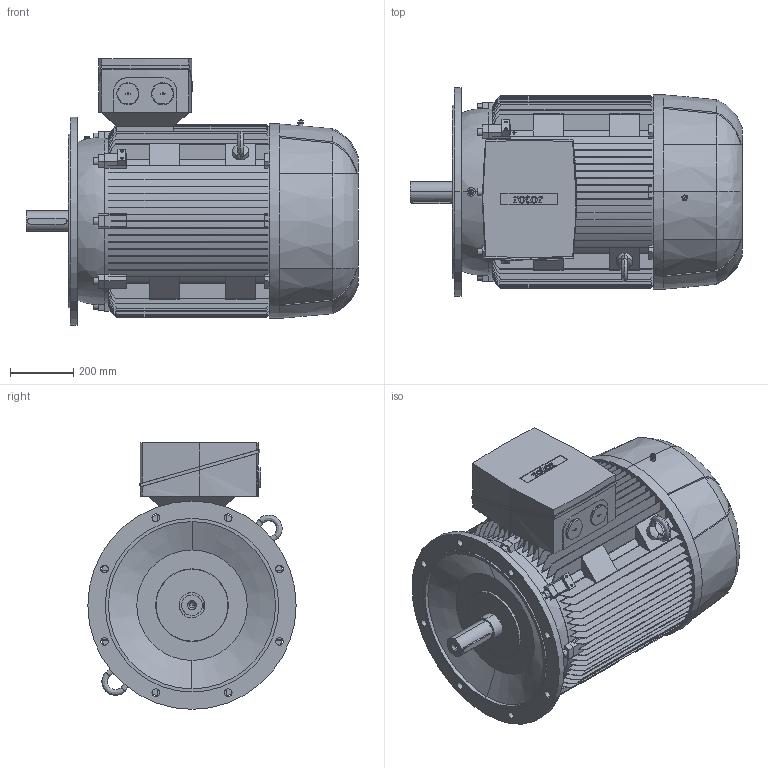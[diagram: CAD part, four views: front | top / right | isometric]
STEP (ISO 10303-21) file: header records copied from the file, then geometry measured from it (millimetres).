
FILE_DESCRIPTION (( 'STEP AP214' ), '1' );
FILE_NAME ('6RN315S02E40 IM3041.STEP', '2017-01-12T13:27:29', ( 'rbc_ict' ), ( 'Microsoft' ), 'SwSTEP 2.0', 'SolidWorks 2015', '' );
FILE_SCHEMA (( 'AUTOMOTIVE_DESIGN' ));
Length unit declared in the file: millimetre
Products named in the file (1): 6RN315S02E40 IM3041
Bounding box: 1052 x 660 x 845 mm (x, y, z)
Volume: 234911510.7 mm3; surface area: 6044119.1 mm2
Topology: 1 solids, 1 shells, 1185 faces, 3374 edges, 2228 vertices
Faces by surface type: plane 726, bspline 218, cylinder 216, cone 25
Entity records: 60414 total; most frequent: CARTESIAN_POINT 19498, ORIENTED_EDGE 6728, DIRECTION 4998, EDGE_CURVE 3364, VERTEX_POINT 2228, VECTOR 1860, LINE 1860, AXIS2_PLACEMENT_3D 1569
